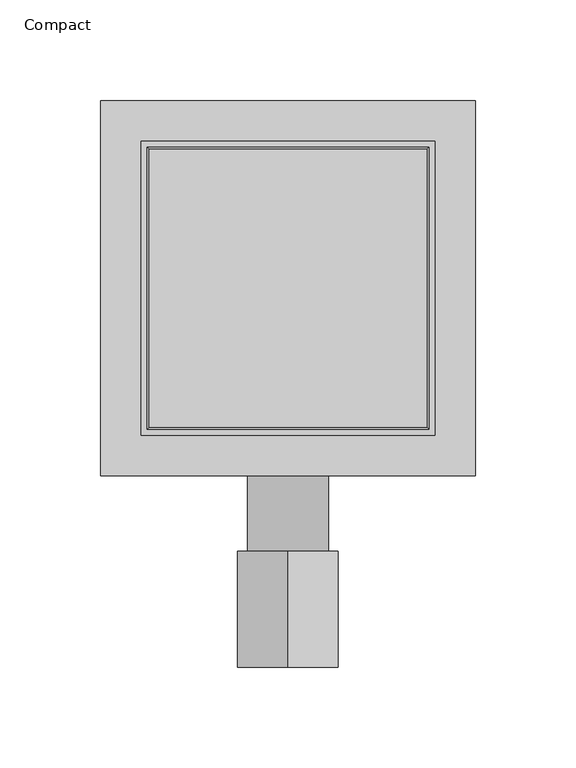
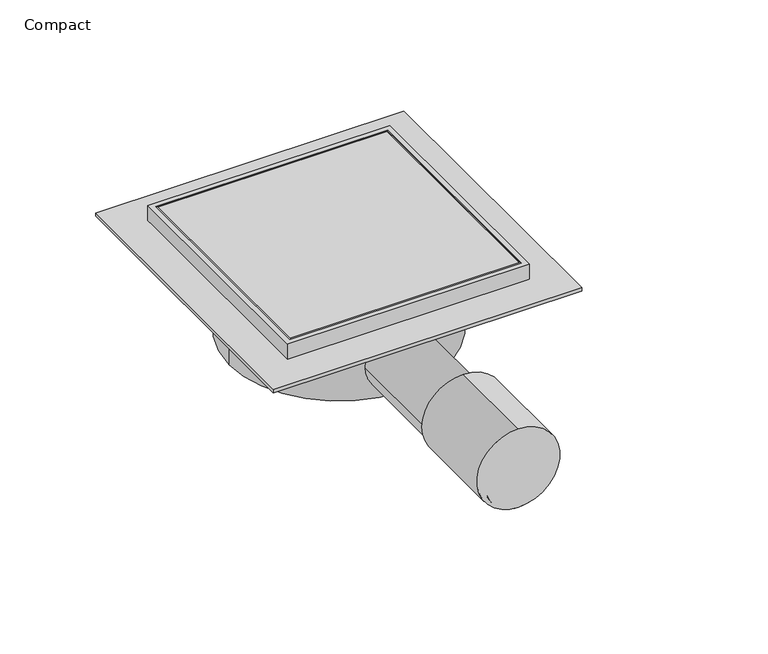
"""IFC4 building model written with IfcOpenShell, lengths in millimetres: sanitary terminal geometry, NLRS_PF_52_UN_Aqua Compact_Easydrain : Compact."""

from ifc_helpers import new_model, si_unit, point, frame, frame_2d, origin, origin_2d, place, context, project, spatial, polyline, circle_curve, ellipse_curve, trimmed, segment, composite_curve, outline, extrude, source, transform, mapped, element, save
from ifc_brep_helpers import plane_surface, cylinder_surface, advanced_brep


def compact_d6b970c3(model_context):
    return source(origin(), model_context, "Body", "SolidModel", [
        extrude(outline(composite_curve([segment(trimmed(circle_curve(frame_2d((-35.0, 0.0)), 25.0), [point((-10.0, 0.0))], [point((-60.0, 0.0))], False, "CARTESIAN"), True, "CONTINUOUS"), segment(trimmed(circle_curve(frame_2d((-35.0, 0.0)), 25.0), [point((-60.0, 0.0))], [point((-10.0, 0.0))], False, "CARTESIAN"), True, "CONTINUOUS")], self_intersect=False)), frame((0.0, -188.0, 0.0), z_axis=(0.0, 1.0, 0.0), x_axis=(0.0, 0.0, 1.0)), (0.0, 0.0, 1.0), 57.5),
        extrude(outline(composite_curve([segment(trimmed(circle_curve(frame_2d((-40.0, 0.0)), 20.0), [point((-40.0, -20.0))], [point((-40.0, 20.0))], False, "CARTESIAN"), True, "CONTINUOUS"), segment(trimmed(circle_curve(frame_2d((-40.0, 0.0)), 20.0), [point((-40.0, 20.0))], [point((-40.0, -20.0))], False, "CARTESIAN"), True, "CONTINUOUS")], self_intersect=False)), frame((0.0, -188.0, 0.0), z_axis=(0.0, 1.0, 0.0), x_axis=(0.0, 0.0, 1.0)), (0.0, 0.0, 1.0), 188.0),
        extrude(outline(polyline([(93.0, 93.0), (93.0, -93.0), (-93.0, -93.0), (-93.0, 93.0), (93.0, 93.0)])), frame((0.0, 0.0, -12.0), z_axis=(0.0, 0.0, 1.0), x_axis=(1.0, 0.0, 0.0)), (0.0, 0.0, 1.0), 2.0),
        extrude(outline(polyline([(73.0, 73.0), (73.0, -73.0), (-73.0, -73.0), (-73.0, 73.0), (73.0, 73.0)]), holes=[polyline([(70.0, 70.0), (-70.0, 70.0), (-70.0, -70.0), (70.0, -70.0), (70.0, 70.0)])]), frame((0.0, 0.0, -10.0), z_axis=(0.0, 0.0, 1.0), x_axis=(1.0, 0.0, 0.0)), (0.0, 0.0, 1.0), 10.0),
        advanced_brep(
        [(70.0, 70.0, -10.0), (70.0, -70.0, -10.0), (-70.0, -70.0, -10.0), (-70.0, 70.0, -10.0), (-69.0, 69.0, 0.0), (-69.0, -69.0, 0.0), (69.0, -69.0, 0.0), (69.0, 69.0, 0.0), (-70.0, 70.0, -1.0), (70.0, 70.0, -1.0), (-70.0, -70.0, -1.0), (70.0, -70.0, -1.0)],
        [
            (0, 1),
            (1, 2),
            (2, 3),
            (3, 0),
            (4, 5),
            (5, 6),
            (6, 7),
            (7, 4),
            (3, 8),
            (8, 9),
            (9, 0),
            (2, 10),
            (10, 8),
            (1, 11),
            (11, 10),
            (9, 11),
            (10, 5, ellipse_curve(frame((-69.0, -69.0, -1.0), z_axis=(-0.7071067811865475, 0.7071067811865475, 0.0), x_axis=(-0.7071067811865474, -0.7071067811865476, 0.0)), 1.4142136, 1.0)),
            (4, 8, ellipse_curve(frame((-69.0, 69.0, -1.0), z_axis=(-0.7071067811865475, -0.7071067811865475, 0.0), x_axis=(0.7071067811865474, -0.7071067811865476, 0.0)), 1.4142136, 1.0)),
            (11, 6, ellipse_curve(frame((69.0, -69.0, -1.0), z_axis=(-0.7071067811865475, -0.7071067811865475, 0.0), x_axis=(0.7071067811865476, -0.7071067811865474, 0.0)), 1.4142136, 1.0)),
            (9, 7, ellipse_curve(frame((69.0, 69.0, -1.0), z_axis=(0.7071067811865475, -0.7071067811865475, 0.0), x_axis=(0.7071067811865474, 0.7071067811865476, 0.0)), 1.4142136, 1.0)),
        ],
        [
            plane_surface(frame((-70.0, 70.0, -10.0), z_axis=(0.0, 0.0, -1.0), x_axis=(1.0, 0.0, 0.0))),
            plane_surface(frame((-70.0, 70.0, 0.0), z_axis=(0.0, 0.0, 1.0), x_axis=(-1.0, 0.0, 0.0))),
            plane_surface(frame((70.0, 70.0, 0.0), z_axis=(0.0, 1.0, 0.0), x_axis=(0.0, 0.0, -1.0))),
            plane_surface(frame((-70.0, 70.0, 0.0), z_axis=(-1.0, 0.0, 0.0), x_axis=(0.0, 0.0, -1.0))),
            plane_surface(frame((-70.0, -70.0, 0.0), z_axis=(0.0, -1.0, 0.0), x_axis=(0.0, 0.0, -1.0))),
            plane_surface(frame((70.0, -70.0, 0.0), z_axis=(1.0, 0.0, 0.0), x_axis=(0.0, 0.0, -1.0))),
            cylinder_surface(frame((-69.0, 70.0, -1.0), z_axis=(0.0, -1.0, 0.0), x_axis=(1.0, 0.0, 0.0)), 1.0),
            cylinder_surface(frame((-70.0, -69.0, -1.0), z_axis=(1.0, 0.0, 0.0), x_axis=(0.0, 1.0, 0.0)), 1.0),
            cylinder_surface(frame((69.0, -70.0, -1.0), z_axis=(0.0, 1.0, 0.0), x_axis=(-1.0, 0.0, 0.0)), 1.0),
            cylinder_surface(frame((70.0, 69.0, -1.0), z_axis=(-1.0, 0.0, 0.0), x_axis=(0.0, -1.0, 0.0)), 1.0),
        ],
        [
            (0, [[1, 2, 3, 4]]),
            (1, [[5, 6, 7, 8]]),
            (2, [[-4, 9, 10, 11]]),
            (3, [[-3, 12, 13, -9]]),
            (4, [[-2, 14, 15, -12]]),
            (5, [[-1, -11, 16, -14]]),
            (6, [[17, -5, 18, -13]]),
            (7, [[-17, -15, 19, -6]]),
            (8, [[-19, -16, 20, -7]]),
            (9, [[-18, -8, -20, -10]]),
        ],
    ),
        extrude(outline(composite_curve([segment(trimmed(circle_curve(origin_2d(), 66.0), [point((-66.0, 0.0))], [point((66.0, 0.0))], False, "CARTESIAN"), True, "CONTINUOUS"), segment(trimmed(circle_curve(origin_2d(), 66.0), [point((66.0, 0.0))], [point((-66.0, 0.0))], False, "CARTESIAN"), True, "CONTINUOUS")], self_intersect=False)), frame((0.0, 0.0, -60.0), z_axis=(0.0, 0.0, 1.0), x_axis=(1.0, 0.0, 0.0)), (0.0, 0.0, 1.0), 50.0),
    ])


if __name__ == "__main__":
    model = new_model("IFC4")
    model_context = context("Model", 3, world=origin())
    ifc_project = project(units=[si_unit("LENGTHUNIT", "METRE", prefix="MILLI")], contexts=[model_context])
    site = spatial("IfcSite", under=ifc_project)
    building = spatial("IfcBuilding", under=site)
    placement = place(None, origin())
    compact_shape = compact_d6b970c3(model_context)
    element("IfcSanitaryTerminal", 1, ObjectType="NLRS_PF_52_UN_Aqua Compact_Easydrain : Compact", at=placement, inside=building, context=model_context, shape_type="MappedRepresentation", body=[
        mapped(compact_shape, transform((0.0, 0.0, 0.0), x_axis=(1.0, 0.0, 0.0), y_axis=(0.0, 1.0, 0.0), z_axis=(0.0, 0.0, 1.0))),
    ])
    save(model, "model.ifc")
